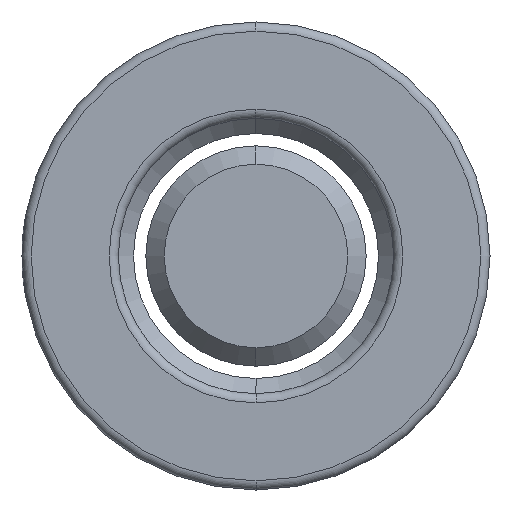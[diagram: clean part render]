
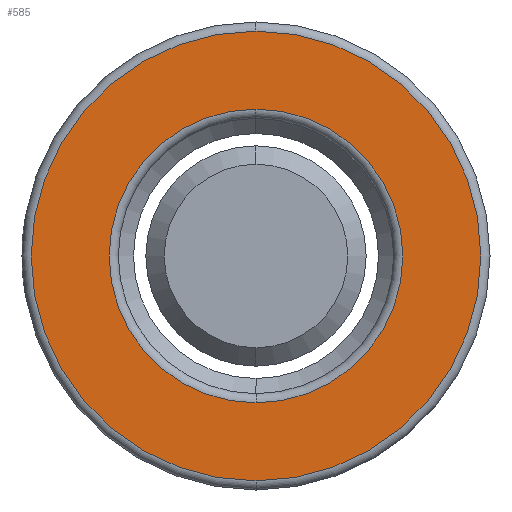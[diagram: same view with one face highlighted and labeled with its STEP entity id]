
A CAD part, left-side view. The second image highlights one B-rep face of the part: STEP entity #585.
In plain terms, the highlighted planar face has unit normal (-1, 0, 0).
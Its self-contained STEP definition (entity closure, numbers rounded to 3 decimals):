
#6 = CIRCLE ( 'NONE', #532, 12.25 ) ;
#61 = EDGE_CURVE ( 'NONE', #1032, #2693, #78, .T. ) ;
#78 = CIRCLE ( 'NONE', #444, 8. ) ;
#98 = ORIENTED_EDGE ( 'NONE', *, *, #2877, .T. ) ;
#173 = CARTESIAN_POINT ( 'NONE',  ( 0., 0., 8. ) ) ;
#286 = CARTESIAN_POINT ( 'NONE',  ( 0., 0., 0. ) ) ;
#444 = AXIS2_PLACEMENT_3D ( 'NONE', #1683, #1674, #785 ) ;
#532 = AXIS2_PLACEMENT_3D ( 'NONE', #636, #2200, #861 ) ;
#585 = ADVANCED_FACE ( 'NONE', ( #1889, #867 ), #2443, .F. ) ;
#636 = CARTESIAN_POINT ( 'NONE',  ( 0., 0., 0. ) ) ;
#719 = EDGE_CURVE ( 'NONE', #2693, #1032, #1952, .T. ) ;
#785 = DIRECTION ( 'NONE',  ( 0., 0., -1. ) ) ;
#861 = DIRECTION ( 'NONE',  ( 0., 0., -1. ) ) ;
#867 = FACE_OUTER_BOUND ( 'NONE', #1152, .T. ) ;
#874 = AXIS2_PLACEMENT_3D ( 'NONE', #286, #2536, #1205 ) ;
#991 = CARTESIAN_POINT ( 'NONE',  ( 0., 0., 12.25 ) ) ;
#1032 = VERTEX_POINT ( 'NONE', #2219 ) ;
#1114 = DIRECTION ( 'NONE',  ( 1., 0., 0. ) ) ;
#1126 = EDGE_LOOP ( 'NONE', ( #2097, #1859 ) ) ;
#1152 = EDGE_LOOP ( 'NONE', ( #98, #1602 ) ) ;
#1173 = CARTESIAN_POINT ( 'NONE',  ( 0., 0., 0. ) ) ;
#1205 = DIRECTION ( 'NONE',  ( 0., 0., -1. ) ) ;
#1602 = ORIENTED_EDGE ( 'NONE', *, *, #2595, .T. ) ;
#1614 = CIRCLE ( 'NONE', #2865, 12.25 ) ;
#1674 = DIRECTION ( 'NONE',  ( 1., 0., 0. ) ) ;
#1683 = CARTESIAN_POINT ( 'NONE',  ( 0., 0., 0. ) ) ;
#1768 = VERTEX_POINT ( 'NONE', #991 ) ;
#1859 = ORIENTED_EDGE ( 'NONE', *, *, #719, .T. ) ;
#1873 = CARTESIAN_POINT ( 'NONE',  ( 0., 0., -12.25 ) ) ;
#1877 = AXIS2_PLACEMENT_3D ( 'NONE', #2008, #1114, #2649 ) ;
#1889 = FACE_BOUND ( 'NONE', #1126, .T. ) ;
#1952 = CIRCLE ( 'NONE', #874, 8. ) ;
#2008 = CARTESIAN_POINT ( 'NONE',  ( 0., 0., 0. ) ) ;
#2097 = ORIENTED_EDGE ( 'NONE', *, *, #61, .T. ) ;
#2200 = DIRECTION ( 'NONE',  ( -1., 0., 0. ) ) ;
#2214 = VERTEX_POINT ( 'NONE', #1873 ) ;
#2219 = CARTESIAN_POINT ( 'NONE',  ( 0., 0., -8. ) ) ;
#2443 = PLANE ( 'NONE',  #1877 ) ;
#2536 = DIRECTION ( 'NONE',  ( 1., 0., 0. ) ) ;
#2595 = EDGE_CURVE ( 'NONE', #1768, #2214, #6, .T. ) ;
#2649 = DIRECTION ( 'NONE',  ( 0., 0., -1. ) ) ;
#2689 = DIRECTION ( 'NONE',  ( 0., 0., -1. ) ) ;
#2693 = VERTEX_POINT ( 'NONE', #173 ) ;
#2719 = DIRECTION ( 'NONE',  ( -1., 0., 0. ) ) ;
#2865 = AXIS2_PLACEMENT_3D ( 'NONE', #1173, #2719, #2689 ) ;
#2877 = EDGE_CURVE ( 'NONE', #2214, #1768, #1614, .T. ) ;
